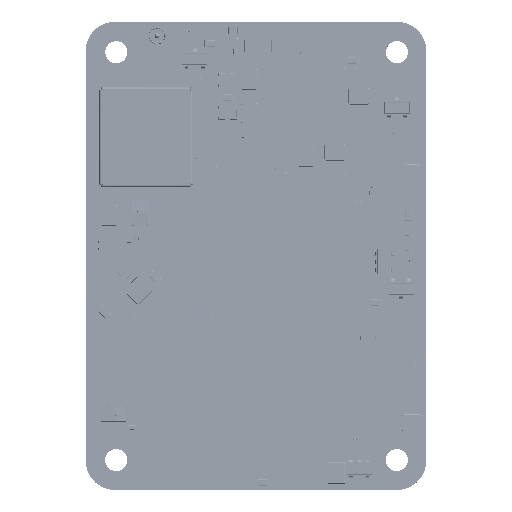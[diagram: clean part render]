
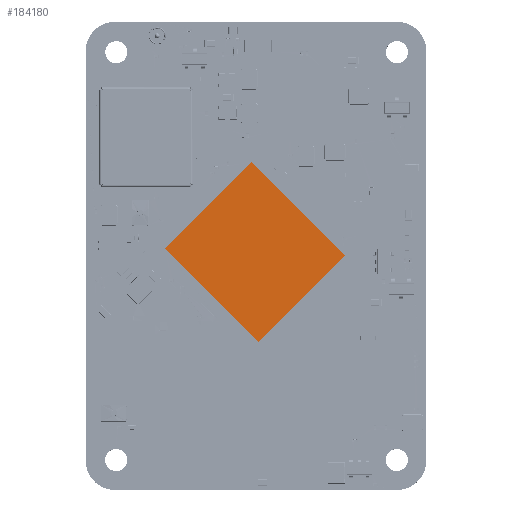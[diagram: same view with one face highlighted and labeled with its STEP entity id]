
A CAD part, top view. The second image highlights one B-rep face of the part: STEP entity #184180.
In plain terms, the highlighted planar face has unit normal (0, 0, 1).
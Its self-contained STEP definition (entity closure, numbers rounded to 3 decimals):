
#12625=DIRECTION('',(0.707,0.707,0.));
#12626=VECTOR('',#12625,14.393);
#12627=CARTESIAN_POINT('',(0.193,-10.112,2.));
#12628=LINE('',#12627,#12626);
#12629=DIRECTION('',(0.707,-0.707,0.));
#12630=VECTOR('',#12629,15.496);
#12631=CARTESIAN_POINT('',(-10.764,0.846,2.));
#12632=LINE('',#12631,#12630);
#12633=DIRECTION('',(-0.707,-0.707,0.));
#12634=VECTOR('',#12633,14.393);
#12635=CARTESIAN_POINT('',(-0.586,11.023,2.));
#12636=LINE('',#12635,#12634);
#12637=DIRECTION('',(-0.707,0.707,0.));
#12638=VECTOR('',#12637,15.496);
#12639=CARTESIAN_POINT('',(10.371,0.066,2.));
#12640=LINE('',#12639,#12638);
#136636=CARTESIAN_POINT('',(0.193,-10.112,2.));
#136637=CARTESIAN_POINT('',(10.371,0.066,2.));
#136638=VERTEX_POINT('',#136636);
#136639=VERTEX_POINT('',#136637);
#136640=CARTESIAN_POINT('',(-0.586,11.023,2.));
#136641=VERTEX_POINT('',#136640);
#136642=CARTESIAN_POINT('',(-10.764,0.846,2.));
#136643=VERTEX_POINT('',#136642);
#184169=CARTESIAN_POINT('',(-0.198,0.452,2.));
#184170=DIRECTION('',(0.,0.,1.));
#184171=DIRECTION('',(-0.707,0.707,0.));
#184172=AXIS2_PLACEMENT_3D('',#184169,#184170,#184171);
#184173=PLANE('',#184172);
#184174=ORIENTED_EDGE('',*,*,#184093,.F.);
#184175=ORIENTED_EDGE('',*,*,#184115,.F.);
#184176=ORIENTED_EDGE('',*,*,#184136,.F.);
#184177=ORIENTED_EDGE('',*,*,#184156,.F.);
#184178=EDGE_LOOP('',(#184174,#184175,#184176,#184177));
#184179=FACE_OUTER_BOUND('',#184178,.F.);
#184180=ADVANCED_FACE('',(#184179),#184173,.T.);
#184093=EDGE_CURVE('',#136638,#136639,#12628,.T.);
#184115=EDGE_CURVE('',#136643,#136638,#12632,.T.);
#184136=EDGE_CURVE('',#136641,#136643,#12636,.T.);
#184156=EDGE_CURVE('',#136639,#136641,#12640,.T.);
